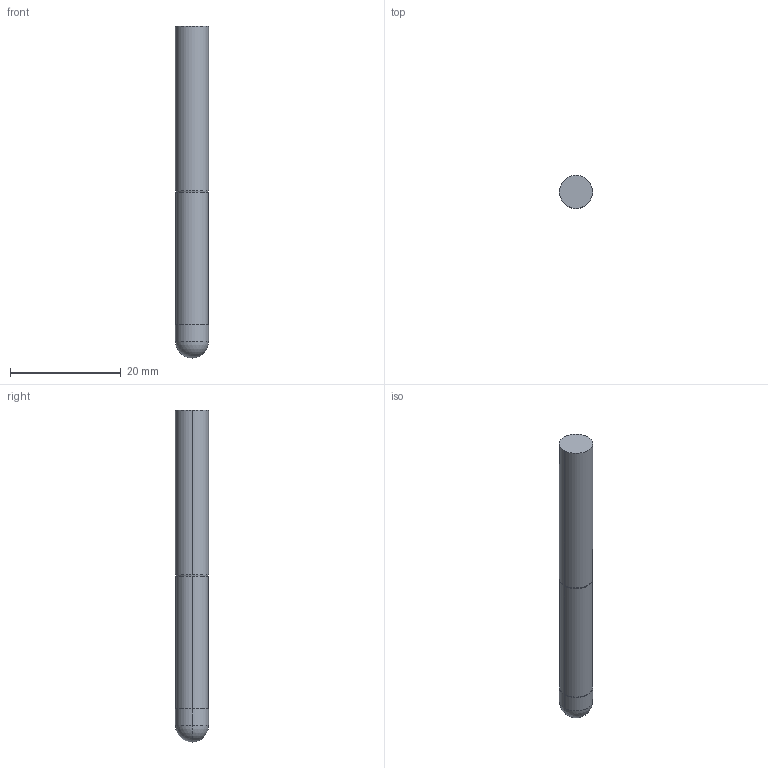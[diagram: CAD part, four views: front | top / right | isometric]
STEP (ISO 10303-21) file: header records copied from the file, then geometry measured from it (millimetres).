
FILE_DESCRIPTION(('STEP AP214'),'1');
FILE_NAME('cctmp_F1E67DAF-C861-49A6-8140-47C05FF0B869_2020_10_01_08_18_14_0436..stp','2020-10-01T06:18:14',('Meusburger Georg GmbH & Co KG'),('CADClick - www.CADClick.com'),'Spatial InterOp 3D',' ','unknown authorization');
FILE_SCHEMA(('AUTOMOTIVE_DESIGN { 1 0 10303 214 1 1 1 1 }'));
Length unit declared in the file: millimetre
Products named in the file (1): WZF28896_6_30
Bounding box: 6 x 6 x 59.99 mm (x, y, z)
Volume: 1645.4 mm3; surface area: 1152.5 mm2
Topology: 1 solids, 1 shells, 12 faces, 24 edges, 13 vertices
Faces by surface type: cylinder 6, cone 2, sphere 2, plane 2
Entity records: 420 total; most frequent: DIRECTION 62, CARTESIAN_POINT 48, ORIENTED_EDGE 44, AXIS2_PLACEMENT_3D 27, EDGE_CURVE 22, CIRCLE 14, STYLED_ITEM 13, PRESENTATION_STYLE_ASSIGNMENT 13
